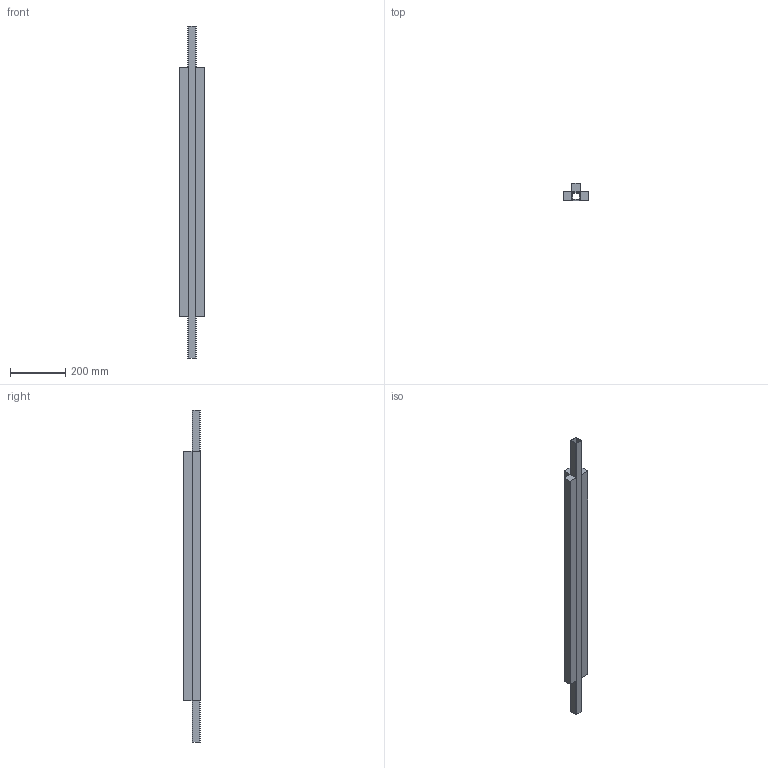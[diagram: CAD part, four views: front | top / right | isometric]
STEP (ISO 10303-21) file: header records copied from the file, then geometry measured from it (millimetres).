
FILE_DESCRIPTION (( 'STEP AP214' ), '1' );
FILE_NAME ('0006648_0_00.step', '2018-07-12T10:39:55', ( '' ), ( '' ), 'SwSTEP 2.0', 'SolidWorks 2018', '' );
FILE_SCHEMA (( 'AUTOMOTIVE_DESIGN' ));
Length unit declared in the file: millimetre
Products named in the file (3): 0006648_0_01_3 lame L=900; 0006648_0_00; 0006648_0_02_3 lame L=900
Assembly tree (2 placements, depth 2):
  0006648_0_00
    0006648_0_01_3 lame L=900
    0006648_0_02_3 lame L=900
Bounding box: 90 x 60 x 1200 mm (x, y, z)
Volume: 2816482.3 mm3; surface area: 589232.1 mm2
Topology: 2 solids, 2 shells, 32 faces, 84 edges, 56 vertices
Faces by surface type: plane 24, cylinder 8
Entity records: 1252 total; most frequent: CARTESIAN_POINT 177, DIRECTION 174, ORIENTED_EDGE 168, EDGE_CURVE 84, VECTOR 68, LINE 68, VERTEX_POINT 56, AXIS2_PLACEMENT_3D 53
